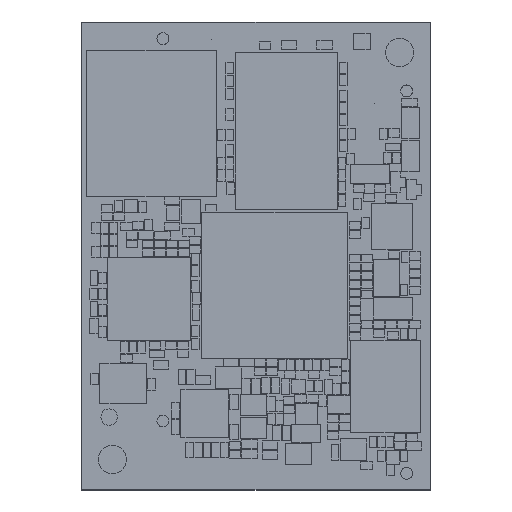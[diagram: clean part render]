
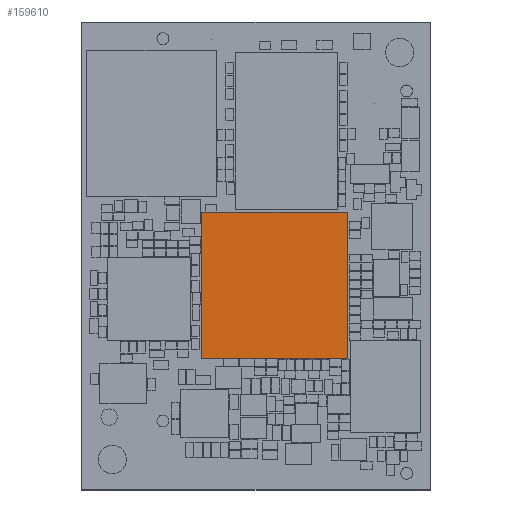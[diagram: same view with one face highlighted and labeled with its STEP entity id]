
A CAD part, top view. The second image highlights one B-rep face of the part: STEP entity #159610.
In plain terms, the highlighted planar face has unit normal (0, 0, 1).
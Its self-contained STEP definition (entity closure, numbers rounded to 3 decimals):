
#159296 = VERTEX_POINT('',#159297);
#159297 = CARTESIAN_POINT('',(24.4,25.5,2.653));
#159304 = PLANE('',#159305);
#159305 = AXIS2_PLACEMENT_3D('',#159306,#159307,#159308);
#159306 = CARTESIAN_POINT('',(24.4,25.5,0.));
#159307 = DIRECTION('',(0.,-1.,0.));
#159308 = DIRECTION('',(-1.,0.,0.));
#159316 = PLANE('',#159317);
#159317 = AXIS2_PLACEMENT_3D('',#159318,#159319,#159320);
#159318 = CARTESIAN_POINT('',(24.4,12.1,0.));
#159319 = DIRECTION('',(-1.,0.,0.));
#159320 = DIRECTION('',(0.,1.,0.));
#159328 = EDGE_CURVE('',#159296,#159329,#159331,.T.);
#159329 = VERTEX_POINT('',#159330);
#159330 = CARTESIAN_POINT('',(11.,25.5,2.653));
#159331 = SURFACE_CURVE('',#159332,(#159336,#159343),.PCURVE_S1.);
#159332 = LINE('',#159333,#159334);
#159333 = CARTESIAN_POINT('',(24.4,25.5,2.653));
#159334 = VECTOR('',#159335,1.);
#159335 = DIRECTION('',(-1.,0.,0.));
#159336 = PCURVE('',#159304,#159337);
#159337 = DEFINITIONAL_REPRESENTATION('',(#159338),#159342);
#159338 = LINE('',#159339,#159340);
#159339 = CARTESIAN_POINT('',(0.,-2.653));
#159340 = VECTOR('',#159341,1.);
#159341 = DIRECTION('',(1.,0.));
#159342 = ( GEOMETRIC_REPRESENTATION_CONTEXT(2) 
PARAMETRIC_REPRESENTATION_CONTEXT() REPRESENTATION_CONTEXT('2D SPACE',''
  ) );
#159343 = PCURVE('',#159344,#159349);
#159344 = PLANE('',#159345);
#159345 = AXIS2_PLACEMENT_3D('',#159346,#159347,#159348);
#159346 = CARTESIAN_POINT('',(17.7,18.8,2.653));
#159347 = DIRECTION('',(0.,0.,1.));
#159348 = DIRECTION('',(-1.,0.,0.));
#159349 = DEFINITIONAL_REPRESENTATION('',(#159350),#159354);
#159350 = LINE('',#159351,#159352);
#159351 = CARTESIAN_POINT('',(-6.7,-6.7));
#159352 = VECTOR('',#159353,1.);
#159353 = DIRECTION('',(1.,0.));
#159354 = ( GEOMETRIC_REPRESENTATION_CONTEXT(2) 
PARAMETRIC_REPRESENTATION_CONTEXT() REPRESENTATION_CONTEXT('2D SPACE',''
  ) );
#159372 = PLANE('',#159373);
#159373 = AXIS2_PLACEMENT_3D('',#159374,#159375,#159376);
#159374 = CARTESIAN_POINT('',(11.,25.5,0.));
#159375 = DIRECTION('',(1.,0.,0.));
#159376 = DIRECTION('',(0.,-1.,0.));
#159414 = EDGE_CURVE('',#159329,#159415,#159417,.T.);
#159415 = VERTEX_POINT('',#159416);
#159416 = CARTESIAN_POINT('',(11.,12.1,2.653));
#159417 = SURFACE_CURVE('',#159418,(#159422,#159429),.PCURVE_S1.);
#159418 = LINE('',#159419,#159420);
#159419 = CARTESIAN_POINT('',(11.,25.5,2.653));
#159420 = VECTOR('',#159421,1.);
#159421 = DIRECTION('',(0.,-1.,0.));
#159422 = PCURVE('',#159372,#159423);
#159423 = DEFINITIONAL_REPRESENTATION('',(#159424),#159428);
#159424 = LINE('',#159425,#159426);
#159425 = CARTESIAN_POINT('',(0.,-2.653));
#159426 = VECTOR('',#159427,1.);
#159427 = DIRECTION('',(1.,0.));
#159428 = ( GEOMETRIC_REPRESENTATION_CONTEXT(2) 
PARAMETRIC_REPRESENTATION_CONTEXT() REPRESENTATION_CONTEXT('2D SPACE',''
  ) );
#159429 = PCURVE('',#159344,#159430);
#159430 = DEFINITIONAL_REPRESENTATION('',(#159431),#159435);
#159431 = LINE('',#159432,#159433);
#159432 = CARTESIAN_POINT('',(6.7,-6.7));
#159433 = VECTOR('',#159434,1.);
#159434 = DIRECTION('',(0.,1.));
#159435 = ( GEOMETRIC_REPRESENTATION_CONTEXT(2) 
PARAMETRIC_REPRESENTATION_CONTEXT() REPRESENTATION_CONTEXT('2D SPACE',''
  ) );
#159453 = PLANE('',#159454);
#159454 = AXIS2_PLACEMENT_3D('',#159455,#159456,#159457);
#159455 = CARTESIAN_POINT('',(11.,12.1,0.));
#159456 = DIRECTION('',(0.,1.,0.));
#159457 = DIRECTION('',(1.,0.,0.));
#159490 = EDGE_CURVE('',#159415,#159491,#159493,.T.);
#159491 = VERTEX_POINT('',#159492);
#159492 = CARTESIAN_POINT('',(24.4,12.1,2.653));
#159493 = SURFACE_CURVE('',#159494,(#159498,#159505),.PCURVE_S1.);
#159494 = LINE('',#159495,#159496);
#159495 = CARTESIAN_POINT('',(11.,12.1,2.653));
#159496 = VECTOR('',#159497,1.);
#159497 = DIRECTION('',(1.,0.,0.));
#159498 = PCURVE('',#159453,#159499);
#159499 = DEFINITIONAL_REPRESENTATION('',(#159500),#159504);
#159500 = LINE('',#159501,#159502);
#159501 = CARTESIAN_POINT('',(0.,-2.653));
#159502 = VECTOR('',#159503,1.);
#159503 = DIRECTION('',(1.,0.));
#159504 = ( GEOMETRIC_REPRESENTATION_CONTEXT(2) 
PARAMETRIC_REPRESENTATION_CONTEXT() REPRESENTATION_CONTEXT('2D SPACE',''
  ) );
#159505 = PCURVE('',#159344,#159506);
#159506 = DEFINITIONAL_REPRESENTATION('',(#159507),#159511);
#159507 = LINE('',#159508,#159509);
#159508 = CARTESIAN_POINT('',(6.7,6.7));
#159509 = VECTOR('',#159510,1.);
#159510 = DIRECTION('',(-1.,0.));
#159511 = ( GEOMETRIC_REPRESENTATION_CONTEXT(2) 
PARAMETRIC_REPRESENTATION_CONTEXT() REPRESENTATION_CONTEXT('2D SPACE',''
  ) );
#159561 = EDGE_CURVE('',#159491,#159296,#159562,.T.);
#159562 = SURFACE_CURVE('',#159563,(#159567,#159574),.PCURVE_S1.);
#159563 = LINE('',#159564,#159565);
#159564 = CARTESIAN_POINT('',(24.4,12.1,2.653));
#159565 = VECTOR('',#159566,1.);
#159566 = DIRECTION('',(0.,1.,0.));
#159567 = PCURVE('',#159316,#159568);
#159568 = DEFINITIONAL_REPRESENTATION('',(#159569),#159573);
#159569 = LINE('',#159570,#159571);
#159570 = CARTESIAN_POINT('',(0.,-2.653));
#159571 = VECTOR('',#159572,1.);
#159572 = DIRECTION('',(1.,0.));
#159573 = ( GEOMETRIC_REPRESENTATION_CONTEXT(2) 
PARAMETRIC_REPRESENTATION_CONTEXT() REPRESENTATION_CONTEXT('2D SPACE',''
  ) );
#159574 = PCURVE('',#159344,#159575);
#159575 = DEFINITIONAL_REPRESENTATION('',(#159576),#159580);
#159576 = LINE('',#159577,#159578);
#159577 = CARTESIAN_POINT('',(-6.7,6.7));
#159578 = VECTOR('',#159579,1.);
#159579 = DIRECTION('',(0.,-1.));
#159580 = ( GEOMETRIC_REPRESENTATION_CONTEXT(2) 
PARAMETRIC_REPRESENTATION_CONTEXT() REPRESENTATION_CONTEXT('2D SPACE',''
  ) );
#159610 = ADVANCED_FACE('',(#159611),#159344,.T.);
#159611 = FACE_BOUND('',#159612,.T.);
#159612 = EDGE_LOOP('',(#159613,#159614,#159615,#159616));
#159613 = ORIENTED_EDGE('',*,*,#159328,.T.);
#159614 = ORIENTED_EDGE('',*,*,#159414,.T.);
#159615 = ORIENTED_EDGE('',*,*,#159490,.T.);
#159616 = ORIENTED_EDGE('',*,*,#159561,.T.);
